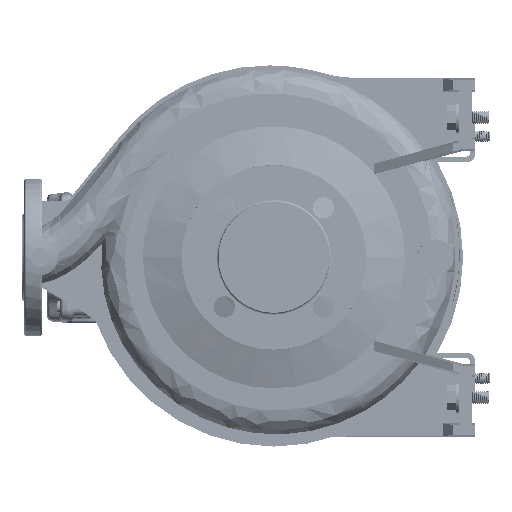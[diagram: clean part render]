
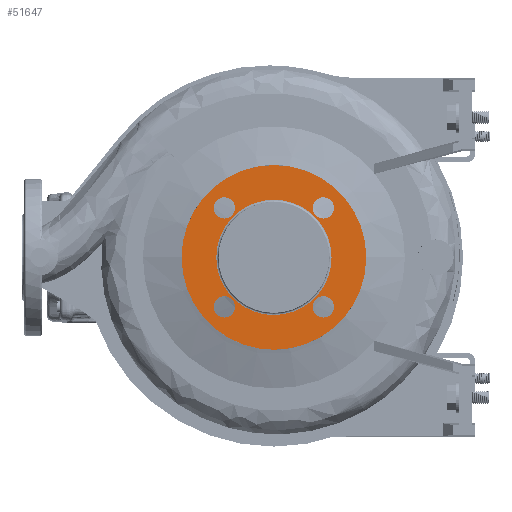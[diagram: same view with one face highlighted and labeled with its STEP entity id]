
A CAD part, left-side view. The second image highlights one B-rep face of the part: STEP entity #51647.
In plain terms, the highlighted planar face has unit normal (-1, 0, 0).
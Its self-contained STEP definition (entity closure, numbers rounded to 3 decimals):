
#1143 = FACE_BOUND ( 'NONE', #82766, .T. ) ;
#1610 = VERTEX_POINT ( 'NONE', #93462 ) ;
#3709 = CIRCLE ( 'NONE', #107905, 82.5 ) ;
#4418 = CIRCLE ( 'NONE', #100179, 9.5 ) ;
#6595 = DIRECTION ( 'NONE',  ( -1., 0., 0. ) ) ;
#7516 = DIRECTION ( 'NONE',  ( 0., 1., 0. ) ) ;
#9582 = CIRCLE ( 'NONE', #116558, 9.5 ) ;
#9888 = AXIS2_PLACEMENT_3D ( 'NONE', #114718, #47701, #128839 ) ;
#13645 = ORIENTED_EDGE ( 'NONE', *, *, #113537, .F. ) ;
#14092 = ORIENTED_EDGE ( 'NONE', *, *, #154340, .F. ) ;
#14370 = FACE_BOUND ( 'NONE', #42711, .T. ) ;
#15662 = ORIENTED_EDGE ( 'NONE', *, *, #42778, .F. ) ;
#16117 = FACE_BOUND ( 'NONE', #170407, .T. ) ;
#17600 = CARTESIAN_POINT ( 'NONE',  ( -103.899, 257.941, 385.366 ) ) ;
#19756 = EDGE_CURVE ( 'NONE', #22643, #30647, #79471, .T. ) ;
#20236 = ORIENTED_EDGE ( 'NONE', *, *, #54726, .F. ) ;
#20972 = AXIS2_PLACEMENT_3D ( 'NONE', #129521, #125401, #117142 ) ;
#22643 = VERTEX_POINT ( 'NONE', #83587 ) ;
#22910 = CIRCLE ( 'NONE', #84917, 9.5 ) ;
#23574 = CARTESIAN_POINT ( 'NONE',  ( -103.899, 140.747, 341.172 ) ) ;
#25875 = AXIS2_PLACEMENT_3D ( 'NONE', #112040, #48505, #166684 ) ;
#26085 = CIRCLE ( 'NONE', #48603, 51.5 ) ;
#29171 = VERTEX_POINT ( 'NONE', #30508 ) ;
#29416 = CIRCLE ( 'NONE', #20972, 9.5 ) ;
#29900 = VERTEX_POINT ( 'NONE', #57197 ) ;
#30508 = CARTESIAN_POINT ( 'NONE',  ( -103.899, 188.552, 385.366 ) ) ;
#30647 = VERTEX_POINT ( 'NONE', #49612 ) ;
#30950 = DIRECTION ( 'NONE',  ( 0., 1., 0. ) ) ;
#32875 = CARTESIAN_POINT ( 'NONE',  ( -103.899, 267.441, 296.978 ) ) ;
#33037 = CARTESIAN_POINT ( 'NONE',  ( -103.899, 179.052, 296.978 ) ) ;
#33221 = AXIS2_PLACEMENT_3D ( 'NONE', #42408, #112025, #30950 ) ;
#35969 = EDGE_LOOP ( 'NONE', ( #150084, #121797 ) ) ;
#36113 = AXIS2_PLACEMENT_3D ( 'NONE', #33037, #6595, #152115 ) ;
#39703 = VERTEX_POINT ( 'NONE', #23574 ) ;
#39938 = DIRECTION ( 'NONE',  ( -1., 0., 0. ) ) ;
#42408 = CARTESIAN_POINT ( 'NONE',  ( -103.899, 223.247, 341.172 ) ) ;
#42711 = EDGE_LOOP ( 'NONE', ( #61849, #15662 ) ) ;
#42778 = EDGE_CURVE ( 'NONE', #29900, #83075, #133865, .T. ) ;
#43454 = EDGE_LOOP ( 'NONE', ( #13645, #20236 ) ) ;
#43845 = VERTEX_POINT ( 'NONE', #94468 ) ;
#47701 = DIRECTION ( 'NONE',  ( -1., 0., 0. ) ) ;
#48505 = DIRECTION ( 'NONE',  ( -1., 0., 0. ) ) ;
#48603 = AXIS2_PLACEMENT_3D ( 'NONE', #106085, #122797, #161619 ) ;
#48863 = AXIS2_PLACEMENT_3D ( 'NONE', #134321, #51472, #133471 ) ;
#49612 = CARTESIAN_POINT ( 'NONE',  ( -103.899, 274.747, 341.172 ) ) ;
#50165 = CARTESIAN_POINT ( 'NONE',  ( -103.899, 179.052, 296.978 ) ) ;
#51472 = DIRECTION ( 'NONE',  ( -1., 0., 0. ) ) ;
#51647 = ADVANCED_FACE ( 'NONE', ( #16117, #81348, #1143, #14370, #119324, #54917 ), #106953, .T. ) ;
#52788 = EDGE_LOOP ( 'NONE', ( #115737, #160428 ) ) ;
#54726 = EDGE_CURVE ( 'NONE', #39703, #43845, #3709, .T. ) ;
#54917 = FACE_OUTER_BOUND ( 'NONE', #43454, .T. ) ;
#57197 = CARTESIAN_POINT ( 'NONE',  ( -103.899, 276.941, 385.366 ) ) ;
#61849 = ORIENTED_EDGE ( 'NONE', *, *, #94496, .F. ) ;
#64226 = DIRECTION ( 'NONE',  ( 0., 1., 0. ) ) ;
#65782 = AXIS2_PLACEMENT_3D ( 'NONE', #95443, #39938, #162506 ) ;
#67962 = CIRCLE ( 'NONE', #25875, 9.5 ) ;
#69883 = EDGE_CURVE ( 'NONE', #29171, #158205, #29416, .T. ) ;
#70516 = DIRECTION ( 'NONE',  ( 0., 0., -1. ) ) ;
#73266 = EDGE_CURVE ( 'NONE', #114297, #89543, #159956, .T. ) ;
#73365 = DIRECTION ( 'NONE',  ( -1., 0., 0. ) ) ;
#79471 = CIRCLE ( 'NONE', #87898, 51.5 ) ;
#81348 = FACE_BOUND ( 'NONE', #35969, .T. ) ;
#82766 = EDGE_LOOP ( 'NONE', ( #103672, #106617 ) ) ;
#82831 = DIRECTION ( 'NONE',  ( 1., 0., 0. ) ) ;
#83075 = VERTEX_POINT ( 'NONE', #17600 ) ;
#83587 = CARTESIAN_POINT ( 'NONE',  ( -103.899, 171.747, 341.172 ) ) ;
#84917 = AXIS2_PLACEMENT_3D ( 'NONE', #108487, #144951, #70516 ) ;
#87898 = AXIS2_PLACEMENT_3D ( 'NONE', #93452, #82831, #147292 ) ;
#88585 = CARTESIAN_POINT ( 'NONE',  ( -103.899, 223.247, 341.172 ) ) ;
#89543 = VERTEX_POINT ( 'NONE', #142947 ) ;
#93452 = CARTESIAN_POINT ( 'NONE',  ( -103.899, 223.247, 341.172 ) ) ;
#93462 = CARTESIAN_POINT ( 'NONE',  ( -103.899, 257.941, 296.978 ) ) ;
#94468 = CARTESIAN_POINT ( 'NONE',  ( -103.899, 305.747, 341.172 ) ) ;
#94496 = EDGE_CURVE ( 'NONE', #83075, #29900, #67962, .T. ) ;
#95443 = CARTESIAN_POINT ( 'NONE',  ( -103.899, 274.747, 341.172 ) ) ;
#98326 = DIRECTION ( 'NONE',  ( 1., 0., 0. ) ) ;
#100179 = AXIS2_PLACEMENT_3D ( 'NONE', #32875, #73365, #153678 ) ;
#102452 = VERTEX_POINT ( 'NONE', #165161 ) ;
#103672 = ORIENTED_EDGE ( 'NONE', *, *, #173218, .F. ) ;
#105110 = CIRCLE ( 'NONE', #48863, 9.5 ) ;
#106085 = CARTESIAN_POINT ( 'NONE',  ( -103.899, 223.247, 341.172 ) ) ;
#106617 = ORIENTED_EDGE ( 'NONE', *, *, #69883, .F. ) ;
#106882 = EDGE_CURVE ( 'NONE', #102452, #1610, #105110, .T. ) ;
#106953 = PLANE ( 'NONE',  #65782 ) ;
#107905 = AXIS2_PLACEMENT_3D ( 'NONE', #88585, #98326, #7516 ) ;
#108487 = CARTESIAN_POINT ( 'NONE',  ( -103.899, 179.052, 385.366 ) ) ;
#112025 = DIRECTION ( 'NONE',  ( 1., 0., 0. ) ) ;
#112040 = CARTESIAN_POINT ( 'NONE',  ( -103.899, 267.441, 385.366 ) ) ;
#113537 = EDGE_CURVE ( 'NONE', #43845, #39703, #143000, .T. ) ;
#113915 = CARTESIAN_POINT ( 'NONE',  ( -103.899, 169.552, 385.366 ) ) ;
#114297 = VERTEX_POINT ( 'NONE', #174089 ) ;
#114718 = CARTESIAN_POINT ( 'NONE',  ( -103.899, 267.441, 385.366 ) ) ;
#115737 = ORIENTED_EDGE ( 'NONE', *, *, #150170, .T. ) ;
#116558 = AXIS2_PLACEMENT_3D ( 'NONE', #50165, #144537, #64226 ) ;
#117142 = DIRECTION ( 'NONE',  ( 0., 0., -1. ) ) ;
#119324 = FACE_BOUND ( 'NONE', #52788, .T. ) ;
#121797 = ORIENTED_EDGE ( 'NONE', *, *, #73266, .F. ) ;
#122797 = DIRECTION ( 'NONE',  ( 1., 0., 0. ) ) ;
#125401 = DIRECTION ( 'NONE',  ( -1., 0., 0. ) ) ;
#128839 = DIRECTION ( 'NONE',  ( 0., -1., 0. ) ) ;
#129521 = CARTESIAN_POINT ( 'NONE',  ( -103.899, 179.052, 385.366 ) ) ;
#133471 = DIRECTION ( 'NONE',  ( 0., 0., 1. ) ) ;
#133865 = CIRCLE ( 'NONE', #9888, 9.5 ) ;
#134321 = CARTESIAN_POINT ( 'NONE',  ( -103.899, 267.441, 296.978 ) ) ;
#142947 = CARTESIAN_POINT ( 'NONE',  ( -103.899, 169.552, 296.978 ) ) ;
#143000 = CIRCLE ( 'NONE', #33221, 82.5 ) ;
#144537 = DIRECTION ( 'NONE',  ( -1., 0., 0. ) ) ;
#144951 = DIRECTION ( 'NONE',  ( -1., 0., 0. ) ) ;
#146998 = ORIENTED_EDGE ( 'NONE', *, *, #106882, .F. ) ;
#147292 = DIRECTION ( 'NONE',  ( 0., 1., 0. ) ) ;
#150084 = ORIENTED_EDGE ( 'NONE', *, *, #151923, .F. ) ;
#150170 = EDGE_CURVE ( 'NONE', #30647, #22643, #26085, .T. ) ;
#151923 = EDGE_CURVE ( 'NONE', #89543, #114297, #9582, .T. ) ;
#152115 = DIRECTION ( 'NONE',  ( 0., 1., 0. ) ) ;
#153678 = DIRECTION ( 'NONE',  ( 0., 0., 1. ) ) ;
#154340 = EDGE_CURVE ( 'NONE', #1610, #102452, #4418, .T. ) ;
#158205 = VERTEX_POINT ( 'NONE', #113915 ) ;
#159956 = CIRCLE ( 'NONE', #36113, 9.5 ) ;
#160428 = ORIENTED_EDGE ( 'NONE', *, *, #19756, .T. ) ;
#161619 = DIRECTION ( 'NONE',  ( 0., 1., 0. ) ) ;
#162506 = DIRECTION ( 'NONE',  ( 0., -1., 0. ) ) ;
#165161 = CARTESIAN_POINT ( 'NONE',  ( -103.899, 276.941, 296.978 ) ) ;
#166684 = DIRECTION ( 'NONE',  ( 0., -1., 0. ) ) ;
#170407 = EDGE_LOOP ( 'NONE', ( #14092, #146998 ) ) ;
#173218 = EDGE_CURVE ( 'NONE', #158205, #29171, #22910, .T. ) ;
#174089 = CARTESIAN_POINT ( 'NONE',  ( -103.899, 188.552, 296.978 ) ) ;
